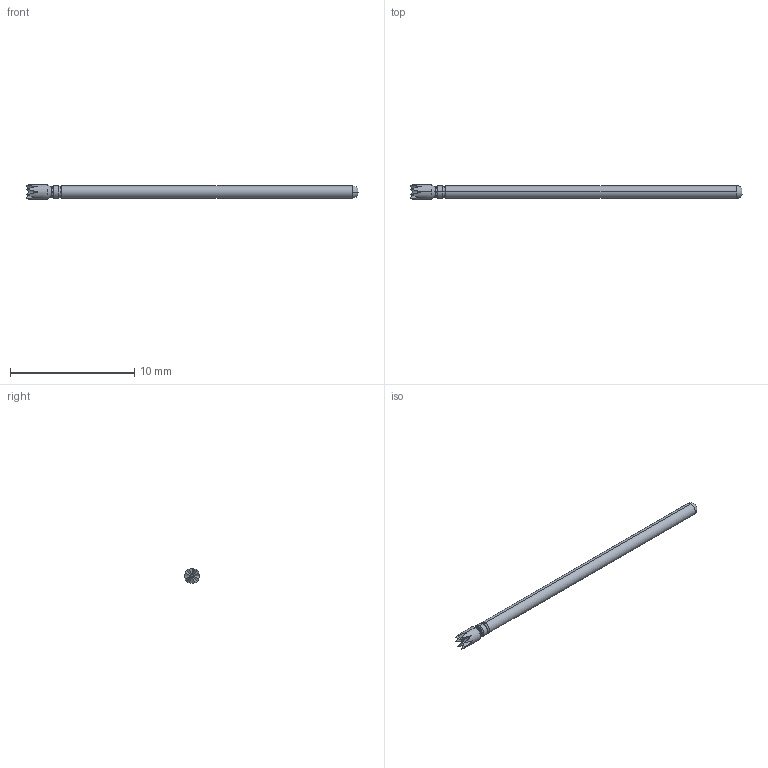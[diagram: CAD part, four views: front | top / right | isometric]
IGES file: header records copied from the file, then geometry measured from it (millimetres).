
Start section: SolidWorks IGES file using analytic representation for surfaces
Global section: file name: Z:\probe solid model mockups\Solidworks models\Parts\LFRE-1Z FULL.IGS; native system: SolidWorks 2016; preprocessor: SolidWorks 2016; author: mlee; date: 180927.164236; units: inch
Bounding box: 26.67 x 1.19 x 1.19 mm (x, y, z)
Surface area: 89.7 mm2 (no closed solid volume)
Topology: 0 solids, 0 shells, 36 faces, 202 edges, 202 vertices
Faces by surface type: bspline 22, revolution 14
